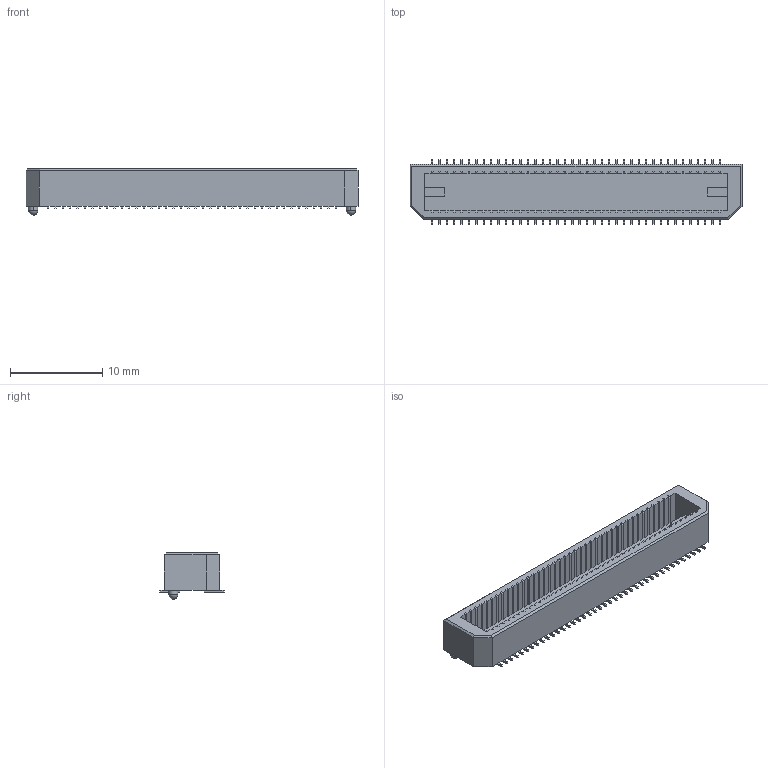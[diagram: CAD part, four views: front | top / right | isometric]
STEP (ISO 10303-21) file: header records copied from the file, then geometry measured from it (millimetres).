
FILE_DESCRIPTION(('Open CASCADE Model'),'2;1');
FILE_NAME('Open CASCADE Shape Model','2026-10-25T11:09:14',('Author'),( 'Open CASCADE'),'Open CASCADE STEP processor 8.0','Open CASCADE 8.0' ,'Unknown');
FILE_SCHEMA(('AUTOMOTIVE_DESIGN { 1 0 10303 214 1 1 1 1 }'));
Products named in the file (1): Open CASCADE STEP translator 8.0 35
Bounding box: 36 x 7.04 x 5.02 mm (x, y, z)
Volume: 412.4 mm3; surface area: 1346 mm2
Topology: 1 solids, 1 shells, 1233 faces, 3524 edges, 2294 vertices
Faces by surface type: plane 1227, cylinder 4, sphere 2
Entity records: 85028 total; most frequent: CARTESIAN_POINT 14214, DIRECTION 13036, LINE 10546, VECTOR 10546, ORIENTED_EDGE 7044, PCURVE 7044, DEFINITIONAL_REPRESENTATION 7044, EDGE_CURVE 3522
